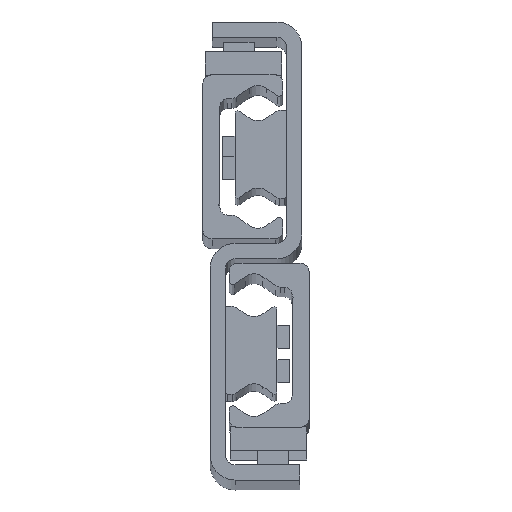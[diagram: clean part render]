
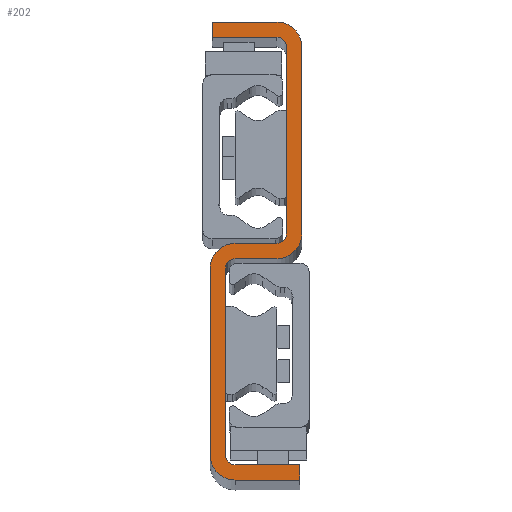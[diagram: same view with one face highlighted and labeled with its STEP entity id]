
A CAD part, top view. The second image highlights one B-rep face of the part: STEP entity #202.
In plain terms, the highlighted planar face has unit normal (0, 0, 1).
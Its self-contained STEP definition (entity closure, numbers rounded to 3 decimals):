
#202=ADVANCED_FACE('',(#713),#714,.T.);
#713=FACE_OUTER_BOUND('',#1543,.T.);
#714=PLANE('',#1544);
#1543=EDGE_LOOP('',(#3069,#3070,#3071,#3072,#3073,#3074,#3075,#3076,#3077,#3078,#3079,#3080,#3081,#3082,#3083,#3084,#3085,#3086,#3087,#3088));
#1544=AXIS2_PLACEMENT_3D('',#3089,#3090,#3091);
#3069=ORIENTED_EDGE('',*,*,#5381,.F.);
#3070=ORIENTED_EDGE('',*,*,#5439,.F.);
#3071=ORIENTED_EDGE('',*,*,#5436,.F.);
#3072=ORIENTED_EDGE('',*,*,#5433,.F.);
#3073=ORIENTED_EDGE('',*,*,#5430,.F.);
#3074=ORIENTED_EDGE('',*,*,#5427,.F.);
#3075=ORIENTED_EDGE('',*,*,#5424,.F.);
#3076=ORIENTED_EDGE('',*,*,#5421,.F.);
#3077=ORIENTED_EDGE('',*,*,#5418,.F.);
#3078=ORIENTED_EDGE('',*,*,#5415,.F.);
#3079=ORIENTED_EDGE('',*,*,#5412,.F.);
#3080=ORIENTED_EDGE('',*,*,#5409,.F.);
#3081=ORIENTED_EDGE('',*,*,#5406,.F.);
#3082=ORIENTED_EDGE('',*,*,#5403,.F.);
#3083=ORIENTED_EDGE('',*,*,#5400,.F.);
#3084=ORIENTED_EDGE('',*,*,#5397,.F.);
#3085=ORIENTED_EDGE('',*,*,#5394,.F.);
#3086=ORIENTED_EDGE('',*,*,#5391,.F.);
#3087=ORIENTED_EDGE('',*,*,#5388,.F.);
#3088=ORIENTED_EDGE('',*,*,#5385,.F.);
#3089=CARTESIAN_POINT('',(-14.,26.,2248.0));
#3090=DIRECTION('',(0.0,0.0,1.0));
#3091=DIRECTION('',(1.0,0.0,0.0));
#5381=EDGE_CURVE('',#6519,#6520,#6521,.T.);
#5385=EDGE_CURVE('',#6520,#6527,#6528,.T.);
#5388=EDGE_CURVE('',#6527,#6532,#6533,.T.);
#5391=EDGE_CURVE('',#6532,#6537,#6538,.T.);
#5394=EDGE_CURVE('',#6537,#6542,#6543,.T.);
#5397=EDGE_CURVE('',#6542,#6547,#6548,.T.);
#5400=EDGE_CURVE('',#6547,#6552,#6553,.T.);
#5403=EDGE_CURVE('',#6552,#6557,#6558,.T.);
#5406=EDGE_CURVE('',#6557,#6562,#6563,.T.);
#5409=EDGE_CURVE('',#6562,#6567,#6568,.T.);
#5412=EDGE_CURVE('',#6567,#6572,#6573,.T.);
#5415=EDGE_CURVE('',#6572,#6577,#6578,.T.);
#5418=EDGE_CURVE('',#6577,#6582,#6583,.T.);
#5421=EDGE_CURVE('',#6582,#6587,#6588,.T.);
#5424=EDGE_CURVE('',#6587,#6592,#6593,.T.);
#5427=EDGE_CURVE('',#6592,#6597,#6598,.T.);
#5430=EDGE_CURVE('',#6597,#6602,#6603,.T.);
#5433=EDGE_CURVE('',#6602,#6607,#6608,.T.);
#5436=EDGE_CURVE('',#6607,#6612,#6613,.T.);
#5439=EDGE_CURVE('',#6612,#6519,#6617,.T.);
#6519=VERTEX_POINT('',#8289);
#6520=VERTEX_POINT('',#8290);
#6521=LINE('',#8291,#8292);
#6527=VERTEX_POINT('',#8301);
#6528=CIRCLE('',#8302,2.5);
#6532=VERTEX_POINT('',#8307);
#6533=LINE('',#8308,#8309);
#6537=VERTEX_POINT('',#8315);
#6538=CIRCLE('',#8316,2.5);
#6542=VERTEX_POINT('',#8321);
#6543=LINE('',#8322,#8323);
#6547=VERTEX_POINT('',#8329);
#6548=LINE('',#8330,#8331);
#6552=VERTEX_POINT('',#8337);
#6553=LINE('',#8338,#8339);
#6557=VERTEX_POINT('',#8345);
#6558=CIRCLE('',#8346,6.5);
#6562=VERTEX_POINT('',#8351);
#6563=LINE('',#8352,#8353);
#6567=VERTEX_POINT('',#8359);
#6568=CIRCLE('',#8360,6.5);
#6572=VERTEX_POINT('',#8365);
#6573=LINE('',#8366,#8367);
#6577=VERTEX_POINT('',#8373);
#6578=CIRCLE('',#8374,2.5);
#6582=VERTEX_POINT('',#8379);
#6583=LINE('',#8380,#8381);
#6587=VERTEX_POINT('',#8387);
#6588=CIRCLE('',#8388,2.5);
#6592=VERTEX_POINT('',#8393);
#6593=LINE('',#8394,#8395);
#6597=VERTEX_POINT('',#8401);
#6598=LINE('',#8402,#8403);
#6602=VERTEX_POINT('',#8409);
#6603=LINE('',#8410,#8411);
#6607=VERTEX_POINT('',#8417);
#6608=CIRCLE('',#8418,6.5);
#6612=VERTEX_POINT('',#8423);
#6613=LINE('',#8424,#8425);
#6617=CIRCLE('',#8431,6.5);
#8289=CARTESIAN_POINT('',(-8.5,24.,2248.0));
#8290=CARTESIAN_POINT('',(-19.5,24.,2248.0));
#8291=CARTESIAN_POINT('',(-8.5,24.,2248.0));
#8292=VECTOR('',#10217,1.0);
#8301=CARTESIAN_POINT('',(-22.,21.5,2248.0));
#8302=AXIS2_PLACEMENT_3D('',#10221,#10222,#10223);
#8307=CARTESIAN_POINT('',(-22.,-27.5,2248.0));
#8308=CARTESIAN_POINT('',(-22.,-27.5,2248.0));
#8309=VECTOR('',#10228,1.0);
#8315=CARTESIAN_POINT('',(-19.5,-30.,2248.0));
#8316=AXIS2_PLACEMENT_3D('',#10231,#10232,#10233);
#8321=CARTESIAN_POINT('',(-2.5,-30.,2248.0));
#8322=CARTESIAN_POINT('',(-19.5,-30.,2248.0));
#8323=VECTOR('',#10238,1.0);
#8329=CARTESIAN_POINT('',(-2.5,-34.,2248.0));
#8330=CARTESIAN_POINT('',(-2.5,-34.,2248.0));
#8331=VECTOR('',#10241,1.0);
#8337=CARTESIAN_POINT('',(-19.5,-34.,2248.0));
#8338=CARTESIAN_POINT('',(-19.5,-34.,2248.0));
#8339=VECTOR('',#10244,1.0);
#8345=CARTESIAN_POINT('',(-26.,-27.5,2248.0));
#8346=AXIS2_PLACEMENT_3D('',#10247,#10248,#10249);
#8351=CARTESIAN_POINT('',(-26.,21.5,2248.0));
#8352=CARTESIAN_POINT('',(-26.,21.5,2248.0));
#8353=VECTOR('',#10254,1.0);
#8359=CARTESIAN_POINT('',(-19.5,28.,2248.0));
#8360=AXIS2_PLACEMENT_3D('',#10257,#10258,#10259);
#8365=CARTESIAN_POINT('',(-8.5,28.,2248.0));
#8366=CARTESIAN_POINT('',(-8.5,28.,2248.0));
#8367=VECTOR('',#10264,1.0);
#8373=CARTESIAN_POINT('',(-6.,30.5,2248.0));
#8374=AXIS2_PLACEMENT_3D('',#10267,#10268,#10269);
#8379=CARTESIAN_POINT('',(-6.,79.5,2248.0));
#8380=CARTESIAN_POINT('',(-6.,79.5,2248.0));
#8381=VECTOR('',#10274,1.0);
#8387=CARTESIAN_POINT('',(-8.5,82.,2248.0));
#8388=AXIS2_PLACEMENT_3D('',#10277,#10278,#10279);
#8393=CARTESIAN_POINT('',(-25.5,82.,2248.0));
#8394=CARTESIAN_POINT('',(-25.5,82.,2248.0));
#8395=VECTOR('',#10284,1.0);
#8401=CARTESIAN_POINT('',(-25.5,86.,2248.0));
#8402=CARTESIAN_POINT('',(-25.5,86.,2248.0));
#8403=VECTOR('',#10287,1.0);
#8409=CARTESIAN_POINT('',(-8.5,86.,2248.0));
#8410=CARTESIAN_POINT('',(-25.5,86.,2248.0));
#8411=VECTOR('',#10290,1.0);
#8417=CARTESIAN_POINT('',(-2.,79.5,2248.0));
#8418=AXIS2_PLACEMENT_3D('',#10293,#10294,#10295);
#8423=CARTESIAN_POINT('',(-2.,30.5,2248.0));
#8424=CARTESIAN_POINT('',(-2.,79.5,2248.0));
#8425=VECTOR('',#10300,1.0);
#8431=AXIS2_PLACEMENT_3D('',#10303,#10304,#10305);
#10217=DIRECTION('',(-1.0,0.,0.0));
#10221=CARTESIAN_POINT('',(-19.5,21.5,2248.0));
#10222=DIRECTION('',(0.0,0.0,1.0));
#10223=DIRECTION('',(1.0,0.0,0.0));
#10228=DIRECTION('',(-0.0,-1.0,-0.0));
#10231=CARTESIAN_POINT('',(-19.5,-27.5,2248.0));
#10232=DIRECTION('',(0.0,0.0,1.0));
#10233=DIRECTION('',(1.0,0.0,0.0));
#10238=DIRECTION('',(1.,0.,0.0));
#10241=DIRECTION('',(-0.0,-1.0,-0.0));
#10244=DIRECTION('',(-1.,0.,-0.0));
#10247=CARTESIAN_POINT('',(-19.5,-27.5,2248.0));
#10248=DIRECTION('',(0.0,0.0,-1.0));
#10249=DIRECTION('',(1.0,0.0,0.0));
#10254=DIRECTION('',(0.0,1.0,0.0));
#10257=CARTESIAN_POINT('',(-19.5,21.5,2248.0));
#10258=DIRECTION('',(0.0,0.0,-1.0));
#10259=DIRECTION('',(1.0,0.0,0.0));
#10264=DIRECTION('',(1.0,0.,0.0));
#10267=CARTESIAN_POINT('',(-8.5,30.5,2248.0));
#10268=DIRECTION('',(0.0,0.0,1.0));
#10269=DIRECTION('',(1.0,0.0,0.0));
#10274=DIRECTION('',(0.0,1.0,0.0));
#10277=CARTESIAN_POINT('',(-8.5,79.5,2248.0));
#10278=DIRECTION('',(0.0,0.0,1.0));
#10279=DIRECTION('',(1.0,0.0,0.0));
#10284=DIRECTION('',(-1.,0.,0.0));
#10287=DIRECTION('',(0.0,1.0,0.0));
#10290=DIRECTION('',(1.,0.,0.0));
#10293=CARTESIAN_POINT('',(-8.5,79.5,2248.0));
#10294=DIRECTION('',(0.0,0.0,-1.0));
#10295=DIRECTION('',(1.0,0.0,0.0));
#10300=DIRECTION('',(0.,-1.0,0.0));
#10303=CARTESIAN_POINT('',(-8.5,30.5,2248.0));
#10304=DIRECTION('',(0.0,0.0,-1.0));
#10305=DIRECTION('',(1.0,0.0,0.0));
